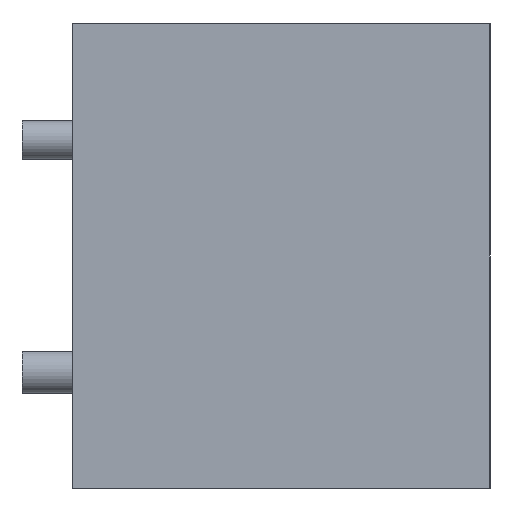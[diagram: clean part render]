
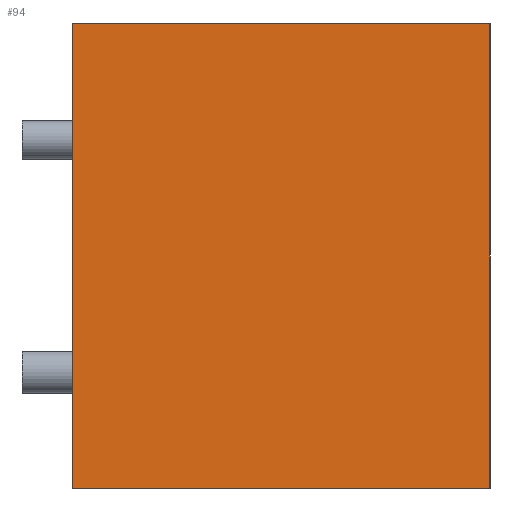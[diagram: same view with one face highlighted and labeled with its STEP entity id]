
A CAD part, left-side view. The second image highlights one B-rep face of the part: STEP entity #94.
In plain terms, the highlighted planar face has unit normal (-1, 0, 0).
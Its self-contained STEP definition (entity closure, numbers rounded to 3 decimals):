
#2 = VECTOR ( 'NONE', #247, 1000. ) ;
#9 = LINE ( 'NONE', #124, #2 ) ;
#24 = CARTESIAN_POINT ( 'NONE',  ( -255., 194., 108. ) ) ;
#44 = DIRECTION ( 'NONE',  ( 0., 0., -1. ) ) ;
#47 = CARTESIAN_POINT ( 'NONE',  ( -255., 0., 108. ) ) ;
#49 = VECTOR ( 'NONE', #156, 1000. ) ;
#56 = EDGE_LOOP ( 'NONE', ( #227, #397, #339, #119 ) ) ;
#62 = EDGE_CURVE ( 'NONE', #87, #66, #178, .T. ) ;
#66 = VERTEX_POINT ( 'NONE', #24 ) ;
#87 = VERTEX_POINT ( 'NONE', #383 ) ;
#94 = ADVANCED_FACE ( 'NONE', ( #254 ), #324, .F. ) ;
#110 = VERTEX_POINT ( 'NONE', #47 ) ;
#119 = ORIENTED_EDGE ( 'NONE', *, *, #279, .T. ) ;
#124 = CARTESIAN_POINT ( 'NONE',  ( -255., 194., -108. ) ) ;
#132 = LINE ( 'NONE', #228, #396 ) ;
#156 = DIRECTION ( 'NONE',  ( 0., -1., 0. ) ) ;
#158 = DIRECTION ( 'NONE',  ( 0., 0., 1. ) ) ;
#161 = CARTESIAN_POINT ( 'NONE',  ( -255., 194., 108. ) ) ;
#178 = LINE ( 'NONE', #273, #328 ) ;
#183 = EDGE_CURVE ( 'NONE', #319, #110, #132, .T. ) ;
#213 = DIRECTION ( 'NONE',  ( 0., 0., 1. ) ) ;
#227 = ORIENTED_EDGE ( 'NONE', *, *, #183, .T. ) ;
#228 = CARTESIAN_POINT ( 'NONE',  ( -255., 0., 108. ) ) ;
#247 = DIRECTION ( 'NONE',  ( 0., -1., 0. ) ) ;
#254 = FACE_OUTER_BOUND ( 'NONE', #56, .T. ) ;
#259 = EDGE_CURVE ( 'NONE', #66, #110, #352, .T. ) ;
#272 = AXIS2_PLACEMENT_3D ( 'NONE', #161, #330, #44 ) ;
#273 = CARTESIAN_POINT ( 'NONE',  ( -255., 194., 108. ) ) ;
#279 = EDGE_CURVE ( 'NONE', #87, #319, #9, .T. ) ;
#319 = VERTEX_POINT ( 'NONE', #322 ) ;
#322 = CARTESIAN_POINT ( 'NONE',  ( -255., 0., -108. ) ) ;
#324 = PLANE ( 'NONE',  #272 ) ;
#328 = VECTOR ( 'NONE', #213, 1000. ) ;
#330 = DIRECTION ( 'NONE',  ( 1., 0., 0. ) ) ;
#339 = ORIENTED_EDGE ( 'NONE', *, *, #62, .F. ) ;
#347 = CARTESIAN_POINT ( 'NONE',  ( -255., 194., 108. ) ) ;
#352 = LINE ( 'NONE', #347, #49 ) ;
#383 = CARTESIAN_POINT ( 'NONE',  ( -255., 194., -108. ) ) ;
#396 = VECTOR ( 'NONE', #158, 1000. ) ;
#397 = ORIENTED_EDGE ( 'NONE', *, *, #259, .F. ) ;
